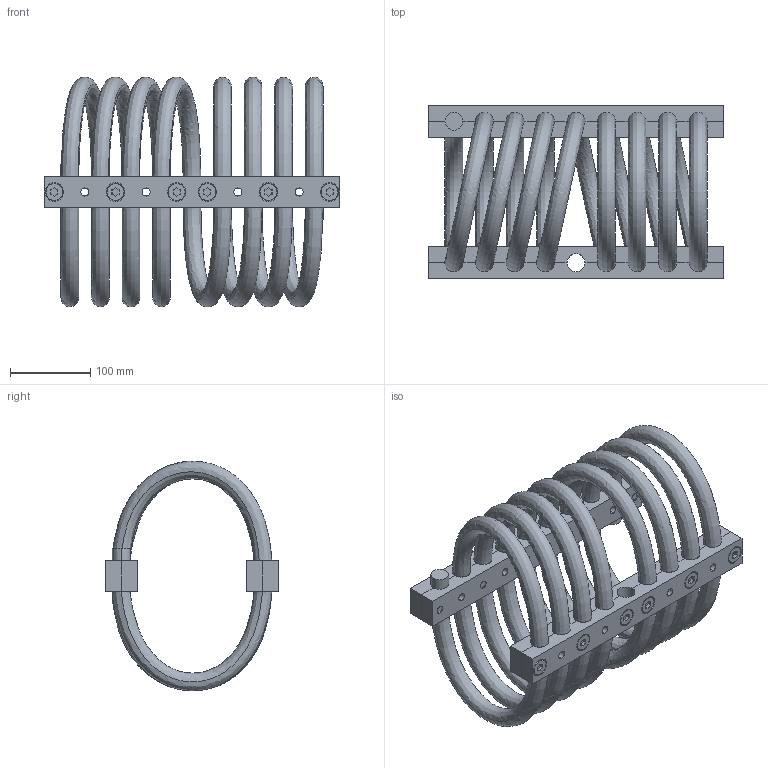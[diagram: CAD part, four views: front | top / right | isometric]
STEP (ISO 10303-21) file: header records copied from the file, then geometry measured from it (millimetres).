
FILE_DESCRIPTION (( 'STEP AP214' ), '1' );
FILE_NAME ('WR28-950-8DM.STEP', '2018-12-07T10:13:15', ( 'user' ), ( 'Microsoft' ), 'SwSTEP 2.0', 'SolidWorks 2016', '' );
FILE_SCHEMA (( 'AUTOMOTIVE_DESIGN' ));
Length unit declared in the file: millimetre
Products named in the file (1): WR28-950-8DM
Bounding box: 368.3 x 216 x 286 mm (x, y, z)
Volume: 3209369.7 mm3; surface area: 671271.4 mm2
Topology: 34 solids, 34 shells, 664 faces, 1522 edges, 962 vertices
Faces by surface type: plane 300, cylinder 258, cone 72, bspline 34
Entity records: 35509 total; most frequent: CARTESIAN_POINT 19113, DIRECTION 3148, ORIENTED_EDGE 3044, EDGE_CURVE 1522, AXIS2_PLACEMENT_3D 1151, VERTEX_POINT 962, LINE 846, VECTOR 846
